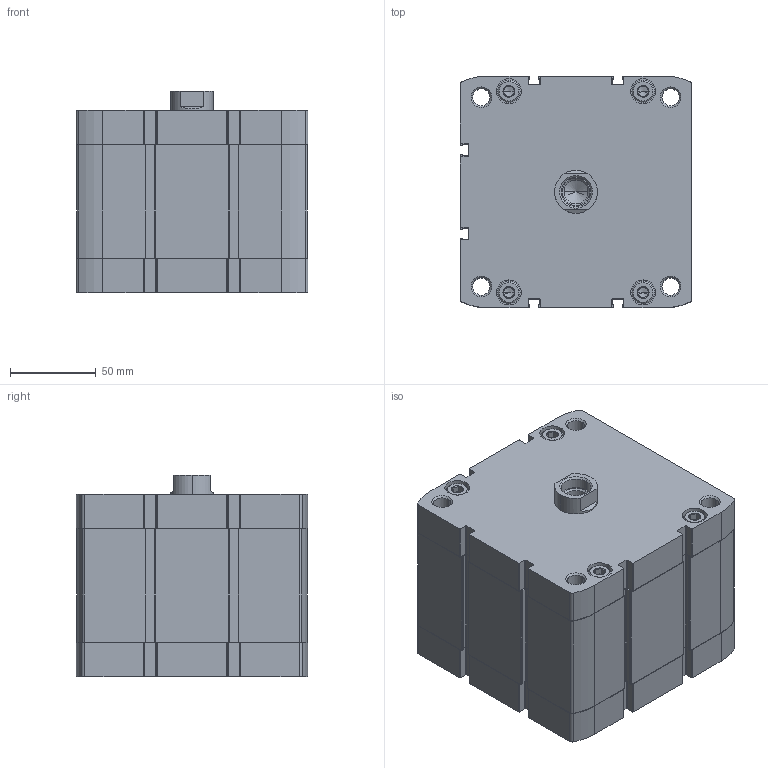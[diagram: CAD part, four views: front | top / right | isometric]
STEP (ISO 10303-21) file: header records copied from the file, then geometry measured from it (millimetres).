
FILE_DESCRIPTION (( 'STEP AP203' ), '1' );
FILE_NAME ('CCN125-25F.STEP', '2020-06-05T19:28:18', ( '' ), ( '' ), 'SwSTEP 2.0', 'SolidWorks 2019', '' );
FILE_SCHEMA (( 'CONFIG_CONTROL_DESIGN' ));
Length unit declared in the file: millimetre
Products named in the file (1): CCN125-25F
Bounding box: 134.6 x 134.6 x 117 mm (x, y, z)
Volume: 1538722.4 mm3; surface area: 211097.4 mm2
Topology: 2 solids, 2 shells, 535 faces, 1370 edges, 861 vertices
Faces by surface type: plane 267, cylinder 194, cone 74
Entity records: 17215 total; most frequent: CARTESIAN_POINT 3931, DIRECTION 2876, ORIENTED_EDGE 2704, EDGE_CURVE 1352, AXIS2_PLACEMENT_3D 1054, VERTEX_POINT 861, VECTOR 768, LINE 768
